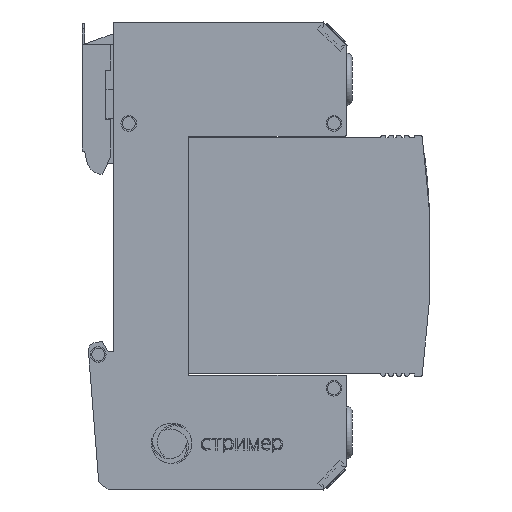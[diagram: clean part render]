
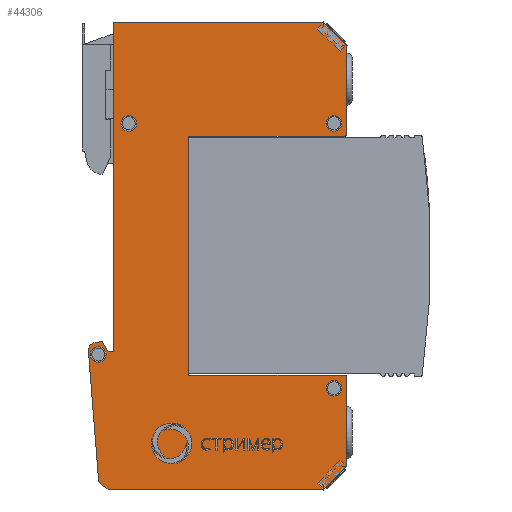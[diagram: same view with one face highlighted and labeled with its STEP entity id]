
A CAD part, front view. The second image highlights one B-rep face of the part: STEP entity #44306.
In plain terms, the highlighted planar face has unit normal (0, -1, 0).
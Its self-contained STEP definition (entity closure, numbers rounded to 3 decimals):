
#42616=CARTESIAN_POINT('',(-14.5,-18.,45.));
#42617=VERTEX_POINT('',#42616);
#42624=CARTESIAN_POINT('',(26.,-18.,45.));
#42625=VERTEX_POINT('',#42624);
#42626=CARTESIAN_POINT('',(-14.5,-18.,45.));
#42627=DIRECTION('',(1.,-0.,-0.));
#42628=VECTOR('',#42627,40.5);
#42629=LINE('',#42626,#42628);
#42630=EDGE_CURVE('',#42617,#42625,#42629,.T.);
#43254=CARTESIAN_POINT('',(-14.5,-18.,-18.5));
#43255=VERTEX_POINT('',#43254);
#43262=CARTESIAN_POINT('',(-14.5,-18.,-18.5));
#43263=DIRECTION('',(-0.,-0.,1.));
#43264=VECTOR('',#43263,63.5);
#43265=LINE('',#43262,#43264);
#43266=EDGE_CURVE('',#43255,#42617,#43265,.T.);
#43461=CARTESIAN_POINT('',(-15.5,-18.,-45.));
#43462=VERTEX_POINT('',#43461);
#43469=CARTESIAN_POINT('',(-17.29,-18.,-43.498));
#43470=VERTEX_POINT('',#43469);
#43471=CARTESIAN_POINT('',(-15.5,-18.,-45.));
#43472=DIRECTION('',(-0.766,-0.,0.643));
#43473=VECTOR('',#43472,2.337);
#43474=LINE('',#43471,#43473);
#43475=EDGE_CURVE('',#43462,#43470,#43474,.T.);
#43500=CARTESIAN_POINT('',(-19.273,-18.,-18.306));
#43501=VERTEX_POINT('',#43500);
#43502=CARTESIAN_POINT('',(-17.29,-18.,-43.498));
#43503=DIRECTION('',(-0.078,-0.,0.997));
#43504=VECTOR('',#43503,25.27);
#43505=LINE('',#43502,#43504);
#43506=EDGE_CURVE('',#43470,#43501,#43505,.T.);
#43532=CARTESIAN_POINT('',(-17.999,-18.,-16.704));
#43533=VERTEX_POINT('',#43532);
#43534=CARTESIAN_POINT('',(-17.777,-18.,-18.188));
#43535=DIRECTION('',(0.,1.,0.));
#43536=DIRECTION('',(0.,-0.,1.));
#43537=AXIS2_PLACEMENT_3D('',#43534,#43535,#43536);
#43538=CIRCLE('',#43537,1.5);
#43539=EDGE_CURVE('',#43501,#43533,#43538,.T.);
#43564=CARTESIAN_POINT('',(-16.632,-18.,-16.5));
#43565=VERTEX_POINT('',#43564);
#43566=CARTESIAN_POINT('',(-17.999,-18.,-16.704));
#43567=DIRECTION('',(0.989,-0.,0.148));
#43568=VECTOR('',#43567,1.383);
#43569=LINE('',#43566,#43568);
#43570=EDGE_CURVE('',#43533,#43565,#43569,.T.);
#43595=CARTESIAN_POINT('',(-15.5,-18.,-18.5));
#43596=VERTEX_POINT('',#43595);
#43597=CARTESIAN_POINT('',(-16.632,-18.,-16.5));
#43598=DIRECTION('',(0.492,0.,-0.87));
#43599=VECTOR('',#43598,2.298);
#43600=LINE('',#43597,#43599);
#43601=EDGE_CURVE('',#43565,#43596,#43600,.T.);
#43624=CARTESIAN_POINT('',(-15.5,-18.,-18.5));
#43625=DIRECTION('',(1.,-0.,-0.));
#43626=VECTOR('',#43625,1.);
#43627=LINE('',#43624,#43626);
#43628=EDGE_CURVE('',#43596,#43255,#43627,.T.);
#43648=CARTESIAN_POINT('',(30.5,-18.,40.5));
#43649=VERTEX_POINT('',#43648);
#43650=CARTESIAN_POINT('',(26.,-18.,45.));
#43651=DIRECTION('',(0.707,0.,-0.707));
#43652=VECTOR('',#43651,6.364);
#43653=LINE('',#43650,#43652);
#43654=EDGE_CURVE('',#42625,#43649,#43653,.T.);
#43699=CARTESIAN_POINT('',(30.5,-18.,23.5));
#43700=VERTEX_POINT('',#43699);
#43701=CARTESIAN_POINT('',(30.5,-18.,40.5));
#43702=DIRECTION('',(-0.,0.,-1.));
#43703=VECTOR('',#43702,17.);
#43704=LINE('',#43701,#43703);
#43705=EDGE_CURVE('',#43649,#43700,#43704,.T.);
#43731=CARTESIAN_POINT('',(30.,-18.,23.));
#43732=VERTEX_POINT('',#43731);
#43733=CARTESIAN_POINT('',(30.,-18.,23.5));
#43734=DIRECTION('',(0.,1.,0.));
#43735=DIRECTION('',(0.,-0.,1.));
#43736=AXIS2_PLACEMENT_3D('',#43733,#43734,#43735);
#43737=CIRCLE('',#43736,0.5);
#43738=EDGE_CURVE('',#43700,#43732,#43737,.T.);
#43763=CARTESIAN_POINT('',(0.,-18.,23.));
#43764=VERTEX_POINT('',#43763);
#43765=CARTESIAN_POINT('',(30.,-18.,23.));
#43766=DIRECTION('',(-1.,-0.,-0.));
#43767=VECTOR('',#43766,30.);
#43768=LINE('',#43765,#43767);
#43769=EDGE_CURVE('',#43732,#43764,#43768,.T.);
#43794=CARTESIAN_POINT('',(0.,-18.,-23.));
#43795=VERTEX_POINT('',#43794);
#43796=CARTESIAN_POINT('',(0.,-18.,23.));
#43797=DIRECTION('',(-0.,0.,-1.));
#43798=VECTOR('',#43797,46.);
#43799=LINE('',#43796,#43798);
#43800=EDGE_CURVE('',#43764,#43795,#43799,.T.);
#43825=CARTESIAN_POINT('',(30.,-18.,-23.));
#43826=VERTEX_POINT('',#43825);
#43827=CARTESIAN_POINT('',(0.,-18.,-23.));
#43828=DIRECTION('',(1.,-0.,-0.));
#43829=VECTOR('',#43828,30.);
#43830=LINE('',#43827,#43829);
#43831=EDGE_CURVE('',#43795,#43826,#43830,.T.);
#43857=CARTESIAN_POINT('',(30.5,-18.,-23.5));
#43858=VERTEX_POINT('',#43857);
#43859=CARTESIAN_POINT('',(30.,-18.,-23.5));
#43860=DIRECTION('',(0.,1.,0.));
#43861=DIRECTION('',(0.,-0.,1.));
#43862=AXIS2_PLACEMENT_3D('',#43859,#43860,#43861);
#43863=CIRCLE('',#43862,0.5);
#43864=EDGE_CURVE('',#43826,#43858,#43863,.T.);
#43909=CARTESIAN_POINT('',(30.5,-18.,-40.5));
#43910=VERTEX_POINT('',#43909);
#43911=CARTESIAN_POINT('',(30.5,-18.,-23.5));
#43912=DIRECTION('',(-0.,0.,-1.));
#43913=VECTOR('',#43912,17.);
#43914=LINE('',#43911,#43913);
#43915=EDGE_CURVE('',#43858,#43910,#43914,.T.);
#43940=CARTESIAN_POINT('',(26.,-18.,-45.));
#43941=VERTEX_POINT('',#43940);
#43942=CARTESIAN_POINT('',(30.5,-18.,-40.5));
#43943=DIRECTION('',(-0.707,0.,-0.707));
#43944=VECTOR('',#43943,6.364);
#43945=LINE('',#43942,#43944);
#43946=EDGE_CURVE('',#43910,#43941,#43945,.T.);
#43962=CARTESIAN_POINT('',(-17.38,-18.,-17.5));
#43963=VERTEX_POINT('',#43962);
#43964=CARTESIAN_POINT('',(-18.88,-18.,-19.));
#43965=VERTEX_POINT('',#43964);
#43966=CARTESIAN_POINT('',(-17.38,-18.,-19.));
#43967=DIRECTION('',(0.,1.,0.));
#43968=DIRECTION('',(0.,-0.,1.));
#43969=AXIS2_PLACEMENT_3D('',#43966,#43967,#43968);
#43970=CIRCLE('',#43969,1.5);
#43971=EDGE_CURVE('',#43963,#43965,#43970,.T.);
#43973=CARTESIAN_POINT('',(-17.38,-18.,-19.));
#43974=DIRECTION('',(0.,1.,0.));
#43975=DIRECTION('',(0.,-0.,1.));
#43976=AXIS2_PLACEMENT_3D('',#43973,#43974,#43975);
#43977=CIRCLE('',#43976,1.5);
#43978=EDGE_CURVE('',#43965,#43963,#43977,.T.);
#44008=CARTESIAN_POINT('',(28.,-18.,-24.));
#44009=VERTEX_POINT('',#44008);
#44010=CARTESIAN_POINT('',(26.5,-18.,-25.5));
#44011=VERTEX_POINT('',#44010);
#44012=CARTESIAN_POINT('',(28.,-18.,-25.5));
#44013=DIRECTION('',(0.,1.,0.));
#44014=DIRECTION('',(0.,-0.,1.));
#44015=AXIS2_PLACEMENT_3D('',#44012,#44013,#44014);
#44016=CIRCLE('',#44015,1.5);
#44017=EDGE_CURVE('',#44009,#44011,#44016,.T.);
#44019=CARTESIAN_POINT('',(28.,-18.,-25.5));
#44020=DIRECTION('',(0.,1.,0.));
#44021=DIRECTION('',(0.,-0.,1.));
#44022=AXIS2_PLACEMENT_3D('',#44019,#44020,#44021);
#44023=CIRCLE('',#44022,1.5);
#44024=EDGE_CURVE('',#44011,#44009,#44023,.T.);
#44054=CARTESIAN_POINT('',(-11.5,-18.,27.));
#44055=VERTEX_POINT('',#44054);
#44056=CARTESIAN_POINT('',(-13.,-18.,25.5));
#44057=VERTEX_POINT('',#44056);
#44058=CARTESIAN_POINT('',(-11.5,-18.,25.5));
#44059=DIRECTION('',(0.,1.,0.));
#44060=DIRECTION('',(0.,-0.,1.));
#44061=AXIS2_PLACEMENT_3D('',#44058,#44059,#44060);
#44062=CIRCLE('',#44061,1.5);
#44063=EDGE_CURVE('',#44055,#44057,#44062,.T.);
#44065=CARTESIAN_POINT('',(-11.5,-18.,25.5));
#44066=DIRECTION('',(0.,1.,0.));
#44067=DIRECTION('',(0.,-0.,1.));
#44068=AXIS2_PLACEMENT_3D('',#44065,#44066,#44067);
#44069=CIRCLE('',#44068,1.5);
#44070=EDGE_CURVE('',#44057,#44055,#44069,.T.);
#44100=CARTESIAN_POINT('',(28.,-18.,27.));
#44101=VERTEX_POINT('',#44100);
#44102=CARTESIAN_POINT('',(26.5,-18.,25.5));
#44103=VERTEX_POINT('',#44102);
#44104=CARTESIAN_POINT('',(28.,-18.,25.5));
#44105=DIRECTION('',(0.,1.,0.));
#44106=DIRECTION('',(0.,-0.,1.));
#44107=AXIS2_PLACEMENT_3D('',#44104,#44105,#44106);
#44108=CIRCLE('',#44107,1.5);
#44109=EDGE_CURVE('',#44101,#44103,#44108,.T.);
#44111=CARTESIAN_POINT('',(28.,-18.,25.5));
#44112=DIRECTION('',(0.,1.,0.));
#44113=DIRECTION('',(0.,-0.,1.));
#44114=AXIS2_PLACEMENT_3D('',#44111,#44112,#44113);
#44115=CIRCLE('',#44114,1.5);
#44116=EDGE_CURVE('',#44103,#44101,#44115,.T.);
#44255=CARTESIAN_POINT('',(26.,-18.,-45.));
#44256=DIRECTION('',(-1.,-0.,-0.));
#44257=VECTOR('',#44256,41.5);
#44258=LINE('',#44255,#44257);
#44259=EDGE_CURVE('',#43941,#43462,#44258,.T.);
#44265=CARTESIAN_POINT('',(0.,-18.,-0.));
#44266=DIRECTION('',(0.,1.,0.));
#44267=DIRECTION('',(0.,0.,-1.));
#44268=AXIS2_PLACEMENT_3D('',#44265,#44266,#44267);
#44269=PLANE('',#44268);
#44270=ORIENTED_EDGE('',*,*,#44116,.T.);
#44271=ORIENTED_EDGE('',*,*,#44109,.T.);
#44272=EDGE_LOOP('',(#44270,#44271));
#44273=FACE_BOUND('',#44272,.T.);
#44274=ORIENTED_EDGE('',*,*,#44070,.T.);
#44275=ORIENTED_EDGE('',*,*,#44063,.T.);
#44276=EDGE_LOOP('',(#44274,#44275));
#44277=FACE_BOUND('',#44276,.T.);
#44278=ORIENTED_EDGE('',*,*,#44024,.T.);
#44279=ORIENTED_EDGE('',*,*,#44017,.T.);
#44280=EDGE_LOOP('',(#44278,#44279));
#44281=FACE_BOUND('',#44280,.T.);
#44282=ORIENTED_EDGE('',*,*,#43978,.T.);
#44283=ORIENTED_EDGE('',*,*,#43971,.T.);
#44284=EDGE_LOOP('',(#44282,#44283));
#44285=FACE_BOUND('',#44284,.T.);
#44286=ORIENTED_EDGE('',*,*,#43475,.F.);
#44287=ORIENTED_EDGE('',*,*,#44259,.F.);
#44288=ORIENTED_EDGE('',*,*,#43946,.F.);
#44289=ORIENTED_EDGE('',*,*,#43915,.F.);
#44290=ORIENTED_EDGE('',*,*,#43864,.F.);
#44291=ORIENTED_EDGE('',*,*,#43831,.F.);
#44292=ORIENTED_EDGE('',*,*,#43800,.F.);
#44293=ORIENTED_EDGE('',*,*,#43769,.F.);
#44294=ORIENTED_EDGE('',*,*,#43738,.F.);
#44295=ORIENTED_EDGE('',*,*,#43705,.F.);
#44296=ORIENTED_EDGE('',*,*,#43654,.F.);
#44297=ORIENTED_EDGE('',*,*,#42630,.F.);
#44298=ORIENTED_EDGE('',*,*,#43266,.F.);
#44299=ORIENTED_EDGE('',*,*,#43628,.F.);
#44300=ORIENTED_EDGE('',*,*,#43601,.F.);
#44301=ORIENTED_EDGE('',*,*,#43570,.F.);
#44302=ORIENTED_EDGE('',*,*,#43539,.F.);
#44303=ORIENTED_EDGE('',*,*,#43506,.F.);
#44304=EDGE_LOOP('',(#44286,#44287,#44288,#44289,#44290,#44291,#44292,#44293,#44294,#44295,#44296,#44297,#44298,#44299,#44300,#44301,#44302,#44303));
#44305=FACE_BOUND('',#44304,.T.);
#44306=ADVANCED_FACE('',(#44273,#44277,#44281,#44285,#44305),#44269,.F.);
